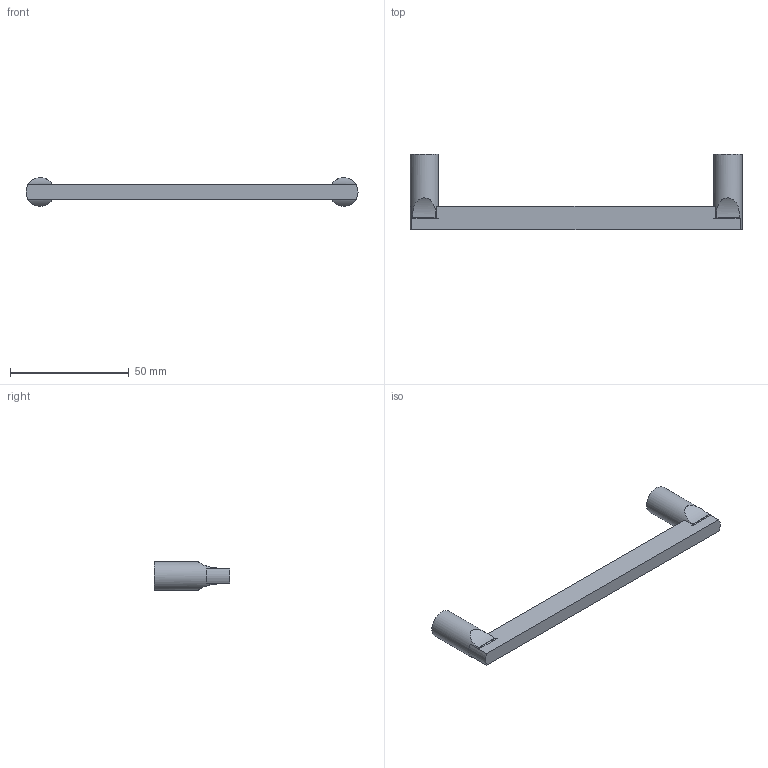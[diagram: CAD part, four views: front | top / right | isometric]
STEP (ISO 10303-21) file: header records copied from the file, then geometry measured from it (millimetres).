
FILE_DESCRIPTION( ( 'STEP AP214' ), '1' );
FILE_NAME( 'C:/Users/kulkarni/Desktop/Apurva/2015/Prodecor_2016/Cadfiles/cabo/9208031.stp', ' ', ( ' ' ), ( ' ' ), 'PSStep 15.0.47', 'PARTsolutions', ' ' );
FILE_SCHEMA( ( 'AUTOMOTIVE_DESIGN { 1 0 10303 214 1 1 1 1 }' ) );
Length unit declared in the file: millimetre
Products named in the file (2): 95 ; _
Assembly tree (1 placements, depth 2):
  95 
    _
Bounding box: 140 x 32 x 11.99 mm (x, y, z)
Volume: 13154.2 mm3; surface area: 6593.2 mm2
Topology: 1 solids, 1 shells, 28 faces, 80 edges, 56 vertices
Faces by surface type: cylinder 17, plane 11
Full cylindrical faces by diameter (mm): 4 x2, 12 x2
Entity records: 1436 total; most frequent: CARTESIAN_POINT 502, ORIENTED_EDGE 148, DIRECTION 120, EDGE_CURVE 74, VERTEX_POINT 54, AXIS2_PLACEMENT_3D 42, LINE 36, VECTOR 36
